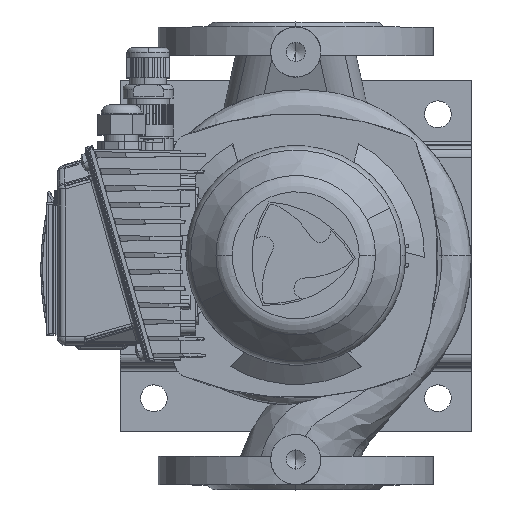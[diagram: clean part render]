
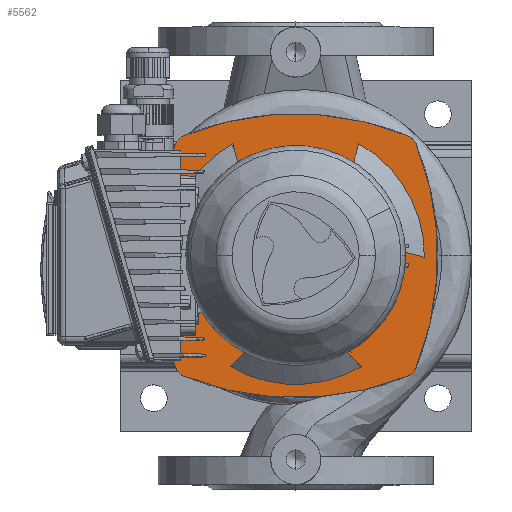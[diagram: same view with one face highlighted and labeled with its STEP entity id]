
A CAD part, top view. The second image highlights one B-rep face of the part: STEP entity #5562.
In plain terms, the highlighted planar face has unit normal (0, 0, 1) as drawn and (1, 0, 0) by its records, which use the part's own axes.
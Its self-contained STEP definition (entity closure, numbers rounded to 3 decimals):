
#5562=ADVANCED_FACE('',(#13912,#13913),#13914,.T.);
#5604=EDGE_CURVE('',#13982,#13985,#13986,.T.);
#5606=EDGE_CURVE('',#13988,#13989,#13990,.T.);
#5614=EDGE_CURVE('',#14001,#14002,#14003,.T.);
#5622=EDGE_CURVE('',#14011,#14014,#14015,.T.);
#5624=EDGE_CURVE('',#14017,#14018,#14019,.T.);
#5632=EDGE_CURVE('',#14029,#14030,#14031,.T.);
#5640=EDGE_CURVE('',#14018,#14029,#14041,.T.);
#5644=EDGE_CURVE('',#14045,#14046,#14047,.T.);
#5652=EDGE_CURVE('',#14030,#14057,#14058,.T.);
#5658=EDGE_CURVE('',#14046,#14065,#14066,.T.);
#5664=EDGE_CURVE('',#14065,#14017,#14073,.T.);
#5668=EDGE_CURVE('',#14057,#14045,#14077,.T.);
#5676=EDGE_CURVE('',#14082,#14002,#14087,.T.);
#5680=EDGE_CURVE('',#14093,#14089,#14094,.T.);
#5688=EDGE_CURVE('',#13982,#14100,#14104,.T.);
#5694=EDGE_CURVE('',#14108,#14111,#14112,.T.);
#5704=EDGE_CURVE('',#14122,#14011,#14125,.T.);
#5710=EDGE_CURVE('',#13989,#14128,#14133,.T.);
#5712=EDGE_CURVE('',#14014,#14089,#14135,.T.);
#5716=EDGE_CURVE('',#14128,#14100,#14139,.T.);
#5720=EDGE_CURVE('',#14111,#14001,#14143,.T.);
#5724=EDGE_CURVE('',#14093,#13988,#14147,.T.);
#5726=EDGE_CURVE('',#13985,#14108,#14149,.T.);
#5728=EDGE_CURVE('',#14082,#14122,#14151,.T.);
#13912=FACE_OUTER_BOUND('',#27858,.T.);
#13913=FACE_BOUND('',#27859,.T.);
#13914=PLANE('',#27860);
#13982=VERTEX_POINT('',#27949);
#13985=VERTEX_POINT('',#27962);
#13986=CIRCLE('',#27963,77.0);
#13988=VERTEX_POINT('',#27966);
#13989=VERTEX_POINT('',#27967);
#13990=CIRCLE('',#27968,77.0);
#14001=VERTEX_POINT('',#28001);
#14002=VERTEX_POINT('',#28002);
#14003=CIRCLE('',#28003,65.176);
#14011=VERTEX_POINT('',#28023);
#14014=VERTEX_POINT('',#28036);
#14015=CIRCLE('',#28037,65.176);
#14017=VERTEX_POINT('',#28040);
#14018=VERTEX_POINT('',#28041);
#14019=CIRCLE('',#28042,179.01);
#14029=VERTEX_POINT('',#28058);
#14030=VERTEX_POINT('',#28059);
#14031=CIRCLE('',#28060,179.01);
#14041=CIRCLE('',#28076,9.);
#14045=VERTEX_POINT('',#28082);
#14046=VERTEX_POINT('',#28083);
#14047=CIRCLE('',#28084,9.0);
#14057=VERTEX_POINT('',#28100);
#14058=CIRCLE('',#28101,9.0);
#14065=VERTEX_POINT('',#28112);
#14066=CIRCLE('',#28113,179.01);
#14073=CIRCLE('',#28124,9.0);
#14077=CIRCLE('',#28130,179.01);
#14082=VERTEX_POINT('',#28137);
#14087=LINE('',#28154,#28155);
#14089=VERTEX_POINT('',#28158);
#14093=VERTEX_POINT('',#28172);
#14094=LINE('',#28173,#28174);
#14100=VERTEX_POINT('',#28193);
#14104=LINE('',#28207,#28208);
#14108=VERTEX_POINT('',#28215);
#14111=VERTEX_POINT('',#28228);
#14112=LINE('',#28229,#28230);
#14122=VERTEX_POINT('',#28255);
#14125=LINE('',#28268,#28269);
#14128=VERTEX_POINT('',#28273);
#14133=LINE('',#28290,#28291);
#14135=CIRCLE('',#28294,65.176);
#14139=CIRCLE('',#28300,65.176);
#14143=CIRCLE('',#28306,65.176);
#14147=CIRCLE('',#28312,77.0);
#14149=CIRCLE('',#28315,77.0);
#14151=CIRCLE('',#28318,77.0);
#27858=EDGE_LOOP('',(#44721,#44722,#44723,#44724,#44725,#44726,#44727,#44728));
#27859=EDGE_LOOP('',(#44729,#44730,#44731,#44732,#44733,#44734,#44735,#44736,#44737,#44738,#44739,#44740,#44741,#44742,#44743,#44744));
#27860=AXIS2_PLACEMENT_3D('',#44745,#44746,#44747);
#27949=CARTESIAN_POINT('',(12.0,-37.712,67.133));
#27962=CARTESIAN_POINT('',(12.0,-77.0,0.));
#27963=AXIS2_PLACEMENT_3D('',#44858,#44859,#44860);
#27966=CARTESIAN_POINT('',(12.0,77.0,0.));
#27967=CARTESIAN_POINT('',(12.0,37.712,67.133));
#27968=AXIS2_PLACEMENT_3D('',#44861,#44862,#44863);
#28001=CARTESIAN_POINT('',(12.0,-65.176,0.));
#28002=CARTESIAN_POINT('',(12.0,-30.602,-57.546));
#28003=AXIS2_PLACEMENT_3D('',#44867,#44868,#44869);
#28023=CARTESIAN_POINT('',(12.0,30.602,-57.546));
#28036=CARTESIAN_POINT('',(12.0,65.176,0.));
#28037=AXIS2_PLACEMENT_3D('',#44873,#44874,#44875);
#28040=CARTESIAN_POINT('',(12.0,28.837,-94.024));
#28041=CARTESIAN_POINT('',(12.0,95.845,22.038));
#28042=AXIS2_PLACEMENT_3D('',#44876,#44877,#44878);
#28058=CARTESIAN_POINT('',(12.0,94.024,28.837));
#28059=CARTESIAN_POINT('',(12.0,-22.038,95.845));
#28060=AXIS2_PLACEMENT_3D('',#44884,#44885,#44886);
#28076=AXIS2_PLACEMENT_3D('',#44892,#44893,#44894);
#28082=CARTESIAN_POINT('',(12.0,-95.845,-22.038));
#28083=CARTESIAN_POINT('',(12.0,-94.024,-28.837));
#28084=AXIS2_PLACEMENT_3D('',#44898,#44899,#44900);
#28100=CARTESIAN_POINT('',(12.0,-28.837,94.024));
#28101=AXIS2_PLACEMENT_3D('',#44906,#44907,#44908);
#28112=CARTESIAN_POINT('',(12.0,22.038,-95.845));
#28113=AXIS2_PLACEMENT_3D('',#44913,#44914,#44915);
#28124=AXIS2_PLACEMENT_3D('',#44920,#44921,#44922);
#28130=AXIS2_PLACEMENT_3D('',#44926,#44927,#44928);
#28137=CARTESIAN_POINT('',(12.0,-39.282,-66.226));
#28154=CARTESIAN_POINT('',(12.0,-39.282,-66.226));
#28155=VECTOR('',#44933,1.0);
#28158=CARTESIAN_POINT('',(12.0,65.137,2.271));
#28172=CARTESIAN_POINT('',(12.0,76.995,-0.906));
#28173=CARTESIAN_POINT('',(12.0,76.995,-0.906));
#28174=VECTOR('',#44934,1.0);
#28193=CARTESIAN_POINT('',(12.0,-34.535,55.275));
#28207=CARTESIAN_POINT('',(12.0,-37.712,67.133));
#28208=VECTOR('',#44936,1.0);
#28215=CARTESIAN_POINT('',(12.0,-76.995,-0.906));
#28228=CARTESIAN_POINT('',(12.0,-65.137,2.271));
#28229=CARTESIAN_POINT('',(12.0,-76.995,-0.906));
#28230=VECTOR('',#44938,1.0);
#28255=CARTESIAN_POINT('',(12.0,39.282,-66.226));
#28268=CARTESIAN_POINT('',(12.0,39.282,-66.226));
#28269=VECTOR('',#44941,1.0);
#28273=CARTESIAN_POINT('',(12.0,34.535,55.275));
#28290=CARTESIAN_POINT('',(12.0,37.712,67.133));
#28291=VECTOR('',#44943,1.0);
#28294=AXIS2_PLACEMENT_3D('',#44944,#44945,#44946);
#28300=AXIS2_PLACEMENT_3D('',#44950,#44951,#44952);
#28306=AXIS2_PLACEMENT_3D('',#44956,#44957,#44958);
#28312=AXIS2_PLACEMENT_3D('',#44962,#44963,#44964);
#28315=AXIS2_PLACEMENT_3D('',#44965,#44966,#44967);
#28318=AXIS2_PLACEMENT_3D('',#44968,#44969,#44970);
#44721=ORIENTED_EDGE('',*,*,#5652,.T.);
#44722=ORIENTED_EDGE('',*,*,#5668,.T.);
#44723=ORIENTED_EDGE('',*,*,#5644,.T.);
#44724=ORIENTED_EDGE('',*,*,#5658,.T.);
#44725=ORIENTED_EDGE('',*,*,#5664,.T.);
#44726=ORIENTED_EDGE('',*,*,#5624,.T.);
#44727=ORIENTED_EDGE('',*,*,#5640,.T.);
#44728=ORIENTED_EDGE('',*,*,#5632,.T.);
#44729=ORIENTED_EDGE('',*,*,#5604,.F.);
#44730=ORIENTED_EDGE('',*,*,#5688,.T.);
#44731=ORIENTED_EDGE('',*,*,#5716,.F.);
#44732=ORIENTED_EDGE('',*,*,#5710,.F.);
#44733=ORIENTED_EDGE('',*,*,#5606,.F.);
#44734=ORIENTED_EDGE('',*,*,#5724,.F.);
#44735=ORIENTED_EDGE('',*,*,#5680,.T.);
#44736=ORIENTED_EDGE('',*,*,#5712,.F.);
#44737=ORIENTED_EDGE('',*,*,#5622,.F.);
#44738=ORIENTED_EDGE('',*,*,#5704,.F.);
#44739=ORIENTED_EDGE('',*,*,#5728,.F.);
#44740=ORIENTED_EDGE('',*,*,#5676,.T.);
#44741=ORIENTED_EDGE('',*,*,#5614,.F.);
#44742=ORIENTED_EDGE('',*,*,#5720,.F.);
#44743=ORIENTED_EDGE('',*,*,#5694,.F.);
#44744=ORIENTED_EDGE('',*,*,#5726,.F.);
#44745=CARTESIAN_POINT('',(12.0,88.0,0.0));
#44746=DIRECTION('',(1.0,0.0,0.0));
#44747=DIRECTION('',(0.0,0.0,-1.0));
#44858=CARTESIAN_POINT('',(12.0,0.0,0.0));
#44859=DIRECTION('',(1.0,0.0,0.0));
#44860=DIRECTION('',(0.0,1.0,0.0));
#44861=CARTESIAN_POINT('',(12.0,0.0,0.0));
#44862=DIRECTION('',(1.0,0.0,0.0));
#44863=DIRECTION('',(0.0,1.0,0.0));
#44867=CARTESIAN_POINT('',(12.0,0.0,0.0));
#44868=DIRECTION('',(1.0,0.0,0.0));
#44869=DIRECTION('',(0.0,1.0,0.0));
#44873=CARTESIAN_POINT('',(12.0,0.0,0.0));
#44874=DIRECTION('',(1.0,0.0,0.0));
#44875=DIRECTION('',(0.0,1.0,0.0));
#44876=CARTESIAN_POINT('',(12.0,-81.415,47.005));
#44877=DIRECTION('',(1.0,0.0,0.0));
#44878=DIRECTION('',(0.0,-0.326,-0.945));
#44884=CARTESIAN_POINT('',(12.0,-47.005,-81.415));
#44885=DIRECTION('',(1.0,0.0,0.0));
#44886=DIRECTION('',(0.0,0.945,-0.326));
#44892=CARTESIAN_POINT('',(12.0,86.933,23.294));
#44893=DIRECTION('',(1.0,0.0,0.0));
#44894=DIRECTION('',(0.0,0.259,-0.966));
#44898=CARTESIAN_POINT('',(12.0,-86.933,-23.294));
#44899=DIRECTION('',(1.0,0.0,0.0));
#44900=DIRECTION('',(0.0,-0.918,0.396));
#44906=CARTESIAN_POINT('',(12.0,-23.294,86.933));
#44907=DIRECTION('',(1.0,0.0,0.0));
#44908=DIRECTION('',(0.0,-0.966,-0.259));
#44913=CARTESIAN_POINT('',(12.0,47.005,81.415));
#44914=DIRECTION('',(1.0,0.0,0.0));
#44915=DIRECTION('',(0.0,-0.945,0.326));
#44920=CARTESIAN_POINT('',(12.0,23.294,-86.933));
#44921=DIRECTION('',(1.0,0.0,-0.0));
#44922=DIRECTION('',(0.0,0.966,0.259));
#44926=CARTESIAN_POINT('',(12.0,81.415,-47.005));
#44927=DIRECTION('',(1.0,0.0,-0.0));
#44928=DIRECTION('',(0.0,0.326,0.945));
#44933=DIRECTION('',(0.,0.707,0.707));
#44934=DIRECTION('',(0.,-0.966,0.259));
#44936=DIRECTION('',(0.,0.259,-0.966));
#44938=DIRECTION('',(0.,0.966,0.259));
#44941=DIRECTION('',(0.,-0.707,0.707));
#44943=DIRECTION('',(0.,-0.259,-0.966));
#44944=CARTESIAN_POINT('',(12.0,0.0,0.0));
#44945=DIRECTION('',(1.0,0.0,0.0));
#44946=DIRECTION('',(0.0,1.0,0.0));
#44950=CARTESIAN_POINT('',(12.0,0.0,0.0));
#44951=DIRECTION('',(1.0,0.0,0.0));
#44952=DIRECTION('',(0.0,1.0,0.0));
#44956=CARTESIAN_POINT('',(12.0,0.0,0.0));
#44957=DIRECTION('',(1.0,0.0,0.0));
#44958=DIRECTION('',(0.0,1.0,0.0));
#44962=CARTESIAN_POINT('',(12.0,0.0,0.0));
#44963=DIRECTION('',(1.0,0.0,0.0));
#44964=DIRECTION('',(0.0,1.0,0.0));
#44965=CARTESIAN_POINT('',(12.0,0.0,0.0));
#44966=DIRECTION('',(1.0,0.0,0.0));
#44967=DIRECTION('',(0.0,1.0,0.0));
#44968=CARTESIAN_POINT('',(12.0,0.0,0.0));
#44969=DIRECTION('',(1.0,0.0,0.0));
#44970=DIRECTION('',(0.0,1.0,0.0));
